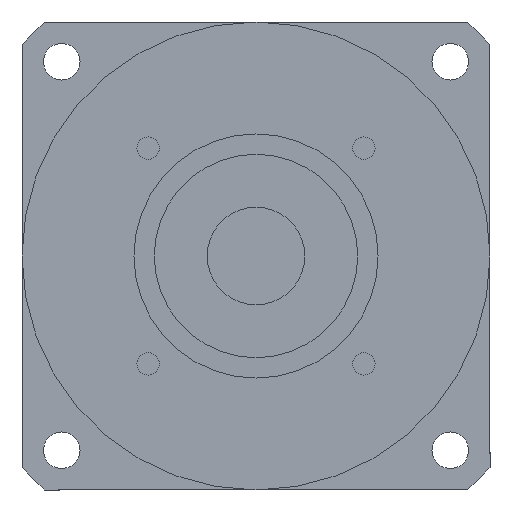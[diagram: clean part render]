
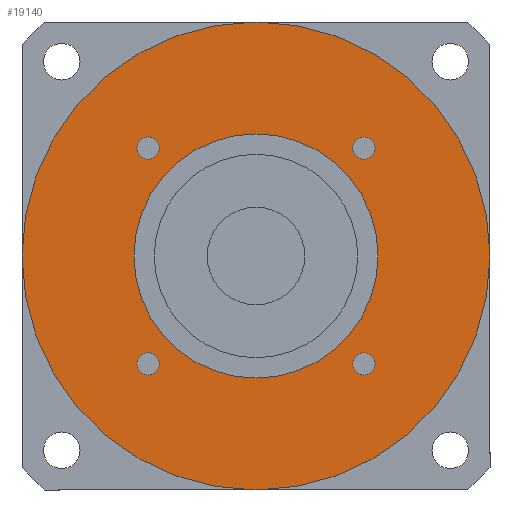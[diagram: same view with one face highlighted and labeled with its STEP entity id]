
A CAD part, left-side view. The second image highlights one B-rep face of the part: STEP entity #19140.
In plain terms, the highlighted planar face has unit normal (-1, 0, 0) as drawn and (0, 0, -1) by its records, which use the part's own axes.
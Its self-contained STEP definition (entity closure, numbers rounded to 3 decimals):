
#15820=CARTESIAN_POINT('',(-23.767,-26.517,-120.));
#15830=VERTEX_POINT('',#15820);
#16010=CARTESIAN_POINT('',(-29.267,-26.517,-120.));
#16020=VERTEX_POINT('',#16010);
#16050=CARTESIAN_POINT('',(-26.517,-26.517,-120.));
#16060=DIRECTION('',(0.,0.,-1.));
#16070=DIRECTION('',(0.,-1.,0.));
#16080=AXIS2_PLACEMENT_3D('',#16050,#16060,#16070);
#16090=CIRCLE('',#16080,2.75);
#16100=CARTESIAN_POINT('',(-26.517,-29.267,-120.));
#16110=VERTEX_POINT('',#16100);
#16120=EDGE_CURVE('',#16110,#16020,#16090,.T.);
#16140=EDGE_CURVE('',#15830,#16110,#16090,.T.);
#16240=CARTESIAN_POINT('',(0.,0.,
-120.));
#16250=DIRECTION('',(0.,0.,1.));
#16260=DIRECTION('',(0.,-1.,0.));
#16270=AXIS2_PLACEMENT_3D('',#16240,#16250,#16260);
#16280=CIRCLE('',#16270,30.);
#16290=CARTESIAN_POINT('',(0.,-30.,-120.));
#16300=VERTEX_POINT('',#16290);
#16310=CARTESIAN_POINT('',(30.,0.,-120.));
#16320=VERTEX_POINT('',#16310);
#16330=EDGE_CURVE('',#16300,#16320,#16280,.T.);
#16560=CARTESIAN_POINT('',(-30.,0.,-120.));
#16570=VERTEX_POINT('',#16560);
#16600=EDGE_CURVE('',#16570,#16300,#16280,.T.);
#18070=CARTESIAN_POINT('',(57.5,0.,-120.));
#18080=VERTEX_POINT('',#18070);
#18110=CARTESIAN_POINT('',(0.,0.,
-120.));
#18120=DIRECTION('',(0.,0.,1.));
#18130=DIRECTION('',(0.,-1.,0.));
#18140=AXIS2_PLACEMENT_3D('',#18110,#18120,#18130);
#18150=CIRCLE('',#18140,57.5);
#18160=CARTESIAN_POINT('',(0.,-57.5,-120.));
#18170=VERTEX_POINT('',#18160);
#18180=EDGE_CURVE('',#18170,#18080,#18150,.T.);
#18200=CARTESIAN_POINT('',(-57.5,0.,-120.));
#18210=VERTEX_POINT('',#18200);
#18220=EDGE_CURVE('',#18210,#18170,#18150,.T.);
#18340=CARTESIAN_POINT('',(0.,0.,
-120.));
#18350=DIRECTION('',(0.,0.,1.));
#18360=DIRECTION('',(-1.,0.,0.));
#18370=AXIS2_PLACEMENT_3D('',#18340,#18350,#18360);
#18380=PLANE('',#18370);
#18390=CARTESIAN_POINT('',(26.517,-26.517,-120.));
#18400=DIRECTION('',(0.,0.,-1.));
#18410=DIRECTION('',(1.,0.,0.));
#18420=AXIS2_PLACEMENT_3D('',#18390,#18400,#18410);
#18430=CIRCLE('',#18420,2.75);
#18440=CARTESIAN_POINT('',(29.267,-26.517,-120.));
#18450=VERTEX_POINT('',#18440);
#18460=CARTESIAN_POINT('',(26.517,-29.267,-120.));
#18470=VERTEX_POINT('',#18460);
#18480=EDGE_CURVE('',#18450,#18470,#18430,.T.);
#18490=ORIENTED_EDGE('',*,*,#18480,.F.);
#18500=CARTESIAN_POINT('',(26.517,-23.767,-120.));
#18510=VERTEX_POINT('',#18500);
#18520=EDGE_CURVE('',#18470,#18510,#18430,.T.);
#18530=ORIENTED_EDGE('',*,*,#18520,.F.);
#18540=EDGE_CURVE('',#18510,#18450,#18430,.T.);
#18550=ORIENTED_EDGE('',*,*,#18540,.F.);
#18560=EDGE_LOOP('',(#18550,#18530,#18490));
#18570=FACE_BOUND('',#18560,.T.);
#18580=CARTESIAN_POINT('',(26.517,26.517,-120.));
#18590=DIRECTION('',(0.,0.,-1.));
#18600=DIRECTION('',(0.,1.,0.));
#18610=AXIS2_PLACEMENT_3D('',#18580,#18590,#18600);
#18620=CIRCLE('',#18610,2.75);
#18630=CARTESIAN_POINT('',(26.517,29.267,-120.));
#18640=VERTEX_POINT('',#18630);
#18650=CARTESIAN_POINT('',(29.267,26.517,-120.));
#18660=VERTEX_POINT('',#18650);
#18670=EDGE_CURVE('',#18640,#18660,#18620,.T.);
#18680=ORIENTED_EDGE('',*,*,#18670,.F.);
#18690=CARTESIAN_POINT('',(23.767,26.517,-120.));
#18700=VERTEX_POINT('',#18690);
#18710=EDGE_CURVE('',#18660,#18700,#18620,.T.);
#18720=ORIENTED_EDGE('',*,*,#18710,.F.);
#18730=EDGE_CURVE('',#18700,#18640,#18620,.T.);
#18740=ORIENTED_EDGE('',*,*,#18730,.F.);
#18750=EDGE_LOOP('',(#18740,#18720,#18680));
#18760=FACE_BOUND('',#18750,.T.);
#18770=CARTESIAN_POINT('',(-26.517,26.517,-120.));
#18780=DIRECTION('',(0.,0.,-1.));
#18790=DIRECTION('',(-1.,0.,0.));
#18800=AXIS2_PLACEMENT_3D('',#18770,#18780,#18790);
#18810=CIRCLE('',#18800,2.75);
#18820=CARTESIAN_POINT('',(-29.267,26.517,-120.));
#18830=VERTEX_POINT('',#18820);
#18840=CARTESIAN_POINT('',(-26.517,29.267,-120.));
#18850=VERTEX_POINT('',#18840);
#18860=EDGE_CURVE('',#18830,#18850,#18810,.T.);
#18870=ORIENTED_EDGE('',*,*,#18860,.F.);
#18880=CARTESIAN_POINT('',(-26.517,23.767,-120.));
#18890=VERTEX_POINT('',#18880);
#18900=EDGE_CURVE('',#18850,#18890,#18810,.T.);
#18910=ORIENTED_EDGE('',*,*,#18900,.F.);
#18920=EDGE_CURVE('',#18890,#18830,#18810,.T.);
#18930=ORIENTED_EDGE('',*,*,#18920,.F.);
#18940=EDGE_LOOP('',(#18930,#18910,#18870));
#18950=FACE_BOUND('',#18940,.T.);
#18960=ORIENTED_EDGE('',*,*,#16120,.F.);
#18970=EDGE_CURVE('',#16020,#15830,#16090,.T.);
#18980=ORIENTED_EDGE('',*,*,#18970,.F.);
#18990=ORIENTED_EDGE('',*,*,#16140,.F.);
#19000=EDGE_LOOP('',(#18990,#18980,#18960));
#19010=FACE_BOUND('',#19000,.T.);
#19020=ORIENTED_EDGE('',*,*,#18180,.F.);
#19030=EDGE_CURVE('',#18080,#18210,#18150,.T.);
#19040=ORIENTED_EDGE('',*,*,#19030,.F.);
#19050=ORIENTED_EDGE('',*,*,#18220,.F.);
#19060=EDGE_LOOP('',(#19050,#19040,#19020));
#19070=FACE_OUTER_BOUND('',#19060,.T.);
#19080=EDGE_CURVE('',#16320,#16570,#16280,.T.);
#19090=ORIENTED_EDGE('',*,*,#19080,.T.);
#19100=ORIENTED_EDGE('',*,*,#16330,.T.);
#19110=ORIENTED_EDGE('',*,*,#16600,.T.);
#19120=EDGE_LOOP('',(#19110,#19100,#19090));
#19130=FACE_BOUND('',#19120,.T.);
#19140=ADVANCED_FACE('',(#18570,#18760,#18950,#19010,#19070,#19130),
#18380,.F.);
